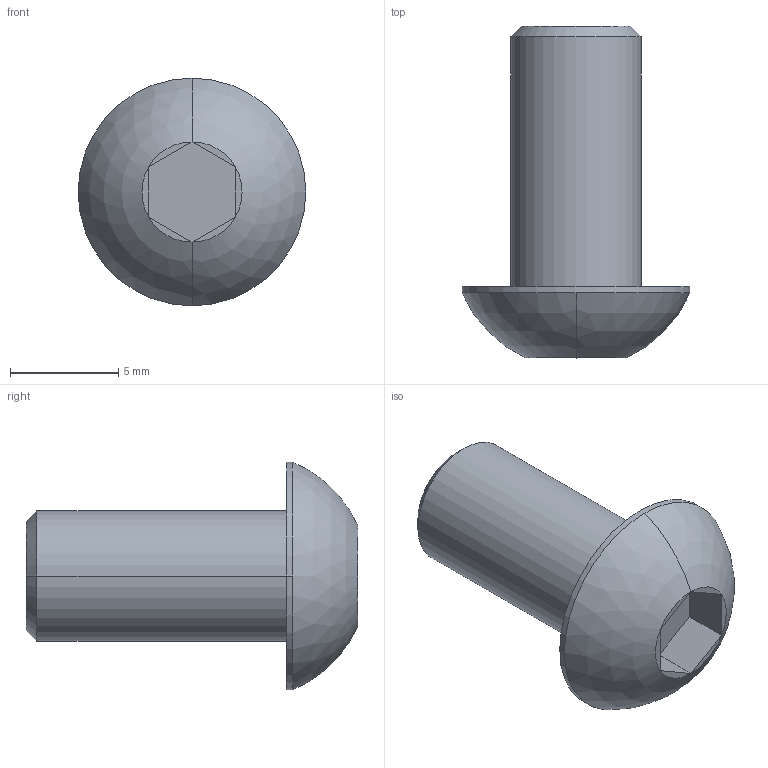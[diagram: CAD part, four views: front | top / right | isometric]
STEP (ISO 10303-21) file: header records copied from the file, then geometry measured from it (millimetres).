
FILE_DESCRIPTION((''),'2;1');
FILE_NAME('VTBEI0612','2002-12-27T',('Lipro doo'),('Lipro d.o.o.'),'PRO/ENGINEER BY PARAMETRIC TECHNOLOGY CORPORATION, 2001150','PRO/ENGINEER BY PARAMETRIC TECHNOLOGY CORPORATION, 2001150','');
FILE_SCHEMA(('CONFIG_CONTROL_DESIGN'));
Length unit declared in the file: millimetre
Products named in the file (1): VTBEI0612
Bounding box: 10.5 x 15.3 x 10.5 mm (x, y, z)
Volume: 503.4 mm3; surface area: 658.2 mm2
Topology: 1 solids, 2 shells, 25 faces, 50 edges, 28 vertices
Faces by surface type: plane 15, cylinder 6, cone 2, sphere 2
Entity records: 684 total; most frequent: DIRECTION 126, CARTESIAN_POINT 104, ORIENTED_EDGE 96, AXIS2_PLACEMENT_3D 50, EDGE_CURVE 50, VERTEX_POINT 28, VECTOR 26, LINE 26
